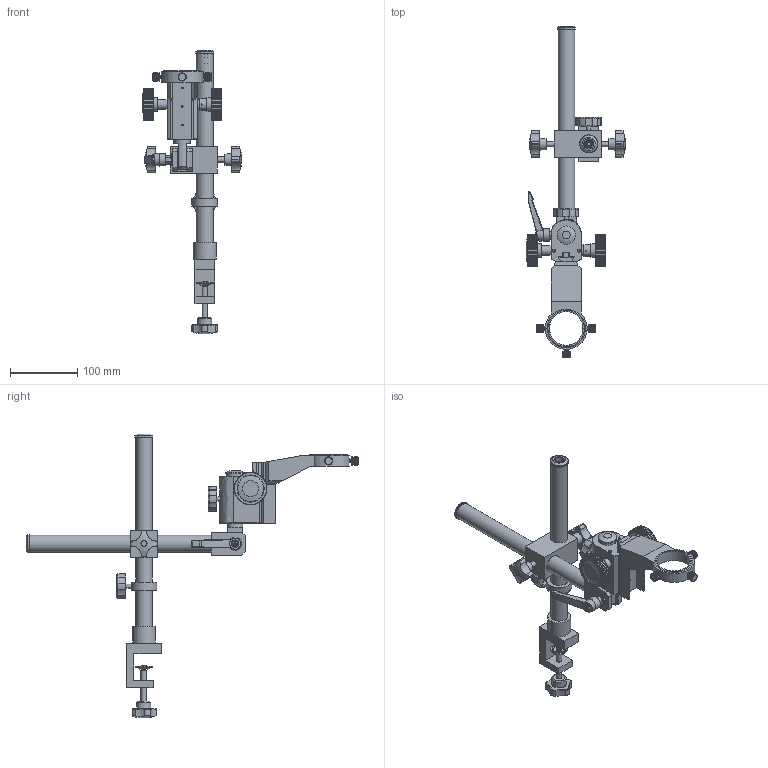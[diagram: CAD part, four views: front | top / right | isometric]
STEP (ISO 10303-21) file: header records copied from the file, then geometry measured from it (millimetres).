
FILE_DESCRIPTION(('STEP AP214'),'1');
FILE_NAME('GR-STD10.stp','2024-09-20T04:55:02',(' '),(' '),'Spatial InterOp 3D',' ',' ');
FILE_SCHEMA(('AUTOMOTIVE_DESIGN { 1 0 10303 214 1 1 1 1 }'));
Length unit declared in the file: metre
Products named in the file (6): GR-STD10; Component1; Component2; Component3; Component4; Component5
Assembly tree (5 placements, depth 2):
  GR-STD10
    Component1
    Component2
    Component3
    Component4
    Component5
Bounding box: 147.09 x 492.11 x 420.9 mm (x, y, z)
Volume: 695491.4 mm3; surface area: 263178.6 mm2
Topology: 12 solids, 13 shells, 3332 faces, 7983 edges, 4816 vertices
Faces by surface type: plane 2396, cylinder 653, bspline 155, torus 68, cone 53, sphere 7
Full cylindrical faces by diameter (mm): 1.5 x4, 2.5 x3, 3.9 x2, 4 x4, 4.6 x3, 4.8 x3, 5 x1, 5.5 x4, 5.7 x3, 5.8 x1, 6 x2, 6.5 x1, 6.9 x1, 7 x3, 7.3 x1, 8 x6, 8.3 x1, 9.3 x1, 9.8 x2, 9.9 x2, 10 x5, 11 x1, 11.7 x7, 12.1 x1, 12.4 x1, 12.9 x1, 13.1 x1, 13.9 x1, 14 x2, 14.5 x1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
Entity records: 211030 total; most frequent: CARTESIAN_POINT 69942, DIRECTION 15704, ORIENTED_EDGE 15338, STYLED_ITEM 11013, PRESENTATION_STYLE_ASSIGNMENT 11013, COLOUR_RGB 11013, EDGE_CURVE 7669, CURVE_STYLE 7669
